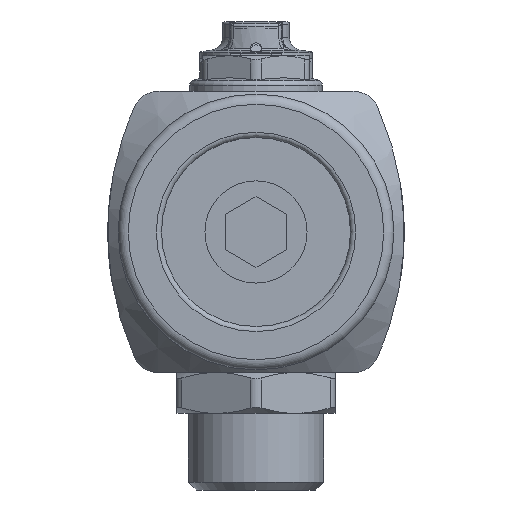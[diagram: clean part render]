
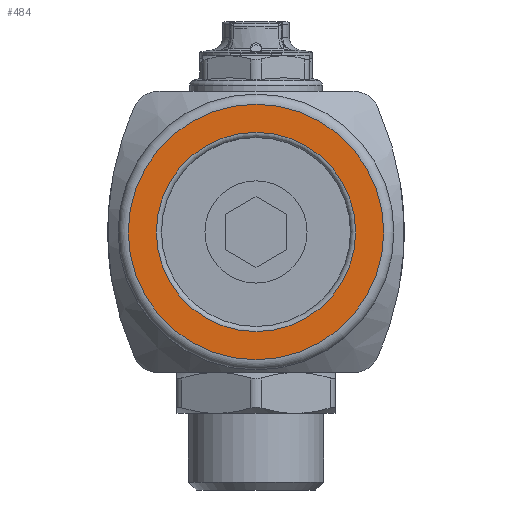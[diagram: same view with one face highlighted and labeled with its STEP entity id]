
A CAD part, front view. The second image highlights one B-rep face of the part: STEP entity #484.
In plain terms, the highlighted planar face has unit normal (0, -1, 0).
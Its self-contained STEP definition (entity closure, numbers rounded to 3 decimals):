
#484=ADVANCED_FACE('',(#5867,#5869),#5871,.F.);
#5867=FACE_BOUND('',#5868,.T.);
#5868=EDGE_LOOP('',(#10880));
#5869=FACE_BOUND('',#5870,.T.);
#5870=EDGE_LOOP('',(#10881));
#5871=PLANE('',#5872);
#5872=AXIS2_PLACEMENT_3D('',#5873,#5874,#5875);
#5873=CARTESIAN_POINT('',(0.,-204.,0.));
#5874=DIRECTION('',(0.,1.,0.));
#5875=DIRECTION('',(-1.,0.,0.));
#10880=ORIENTED_EDGE('',*,*,#15509,.F.);
#10881=ORIENTED_EDGE('',*,*,#15526,.T.);
#15509=EDGE_CURVE('',#18768,#18768,#18769,.T.);
#15526=EDGE_CURVE('',#18802,#18802,#18803,.F.);
#18768=VERTEX_POINT('',#40959);
#18769=CIRCLE('',#40960,25.);
#18802=VERTEX_POINT('',#41034);
#18803=CIRCLE('',#41035,19.5);
#40959=CARTESIAN_POINT('',(-25.,-204.,0.));
#40960=AXIS2_PLACEMENT_3D('',#40961,#40962,#40963);
#40961=CARTESIAN_POINT('',(0.,-204.,0.));
#40962=DIRECTION('',(0.,1.,0.));
#40963=DIRECTION('',(-1.,0.,0.));
#41034=CARTESIAN_POINT('',(19.5,-204.,0.));
#41035=AXIS2_PLACEMENT_3D('',#41036,#41037,#41038);
#41036=CARTESIAN_POINT('',(0.,-204.,0.));
#41037=DIRECTION('',(0.,-1.,0.));
#41038=DIRECTION('',(1.,0.,0.));
